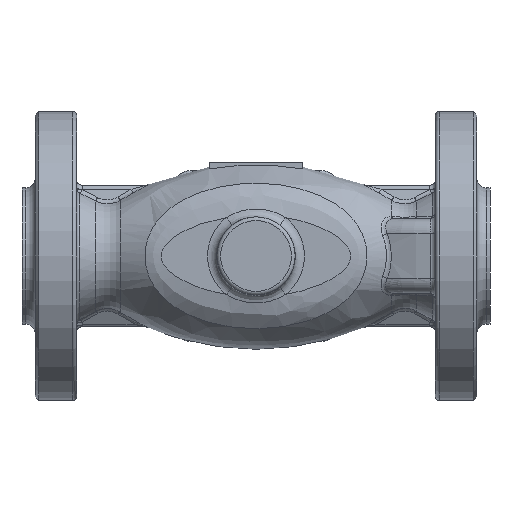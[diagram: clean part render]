
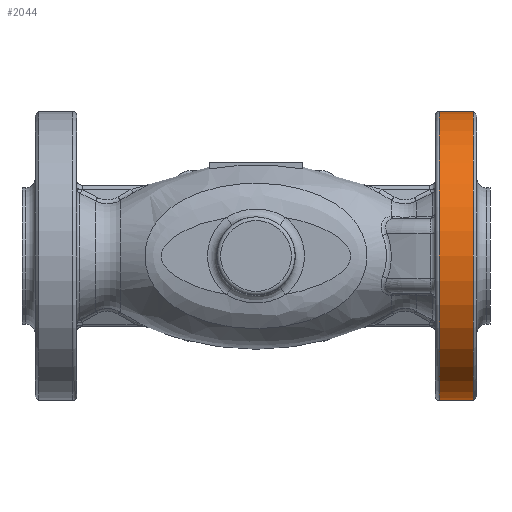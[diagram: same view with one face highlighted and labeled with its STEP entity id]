
A CAD part, front view. The second image highlights one B-rep face of the part: STEP entity #2044.
In plain terms, the highlighted cylindrical face has radius 77.5 mm (diameter 155 mm), a full revolution.
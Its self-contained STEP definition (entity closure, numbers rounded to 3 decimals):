
#1220=CYLINDRICAL_SURFACE('',#8921,77.5);
#2044=ADVANCED_FACE('',(#2736,#2737),#1220,.T.);
#2736=FACE_BOUND('',#3132,.T.);
#2737=FACE_BOUND('',#3133,.T.);
#3132=EDGE_LOOP('',(#4149));
#3133=EDGE_LOOP('',(#4150));
#4149=ORIENTED_EDGE('',*,*,#7230,.T.);
#4150=ORIENTED_EDGE('',*,*,#7231,.T.);
#6434=VERTEX_POINT('',#13456);
#6435=VERTEX_POINT('',#13458);
#7230=EDGE_CURVE('',#6434,#6434,#8288,.T.);
#7231=EDGE_CURVE('',#6435,#6435,#8289,.T.);
#8288=CIRCLE('',#8919,77.5);
#8289=CIRCLE('',#8920,77.5);
#8919=AXIS2_PLACEMENT_3D('',#13455,#10245,#10246);
#8920=AXIS2_PLACEMENT_3D('',#13457,#10247,#10248);
#8921=AXIS2_PLACEMENT_3D('',#13459,#10249,#10250);
#10245=DIRECTION('',(-1.,0.,0.));
#10246=DIRECTION('',(0.,0.,-1.));
#10247=DIRECTION('',(1.,0.,0.));
#10248=DIRECTION('',(0.,0.,1.));
#10249=DIRECTION('',(1.,0.,0.));
#10250=DIRECTION('',(0.,0.,-1.));
#13455=CARTESIAN_POINT('',(116.5,0.,0.));
#13456=CARTESIAN_POINT('',(116.5,0.,-77.5));
#13457=CARTESIAN_POINT('',(98.2,0.,0.));
#13458=CARTESIAN_POINT('',(98.2,0.,77.5));
#13459=CARTESIAN_POINT('',(0.,0.,0.));
